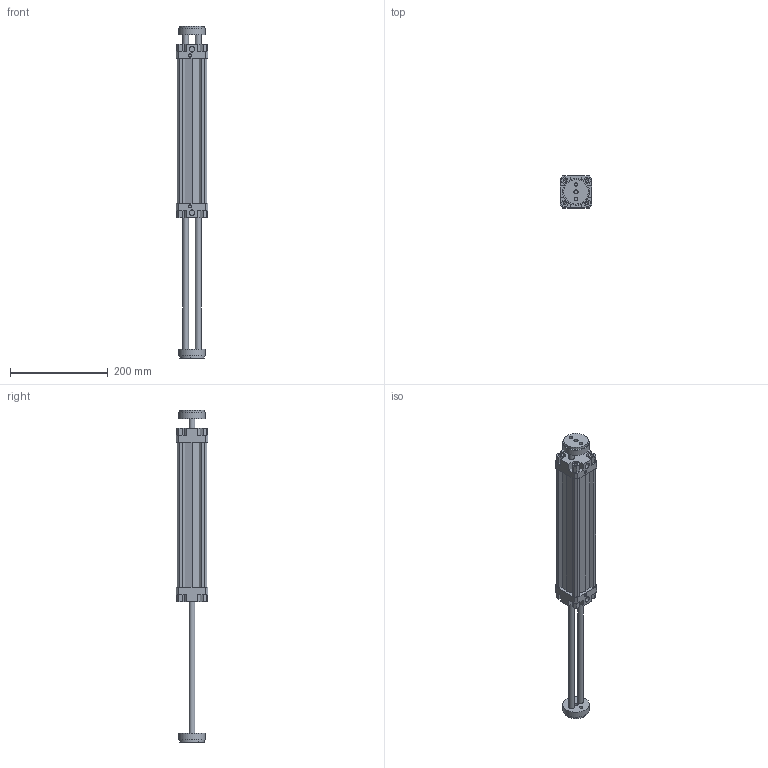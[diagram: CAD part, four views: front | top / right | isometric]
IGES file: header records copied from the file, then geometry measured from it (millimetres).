
Global section: file name: 132#_050_0250_06; native system: Autodesk Inventor 2014; preprocessor: unknown; author: A. Manieri; date: 20161006.155758; units: millimetre
Bounding box: 65 x 65 x 680 mm (x, y, z)
Volume: 824240.4 mm3; surface area: 238062 mm2
Topology: 2 solids, 2 shells, 190 faces, 518 edges, 354 vertices
Faces by surface type: bspline 190
